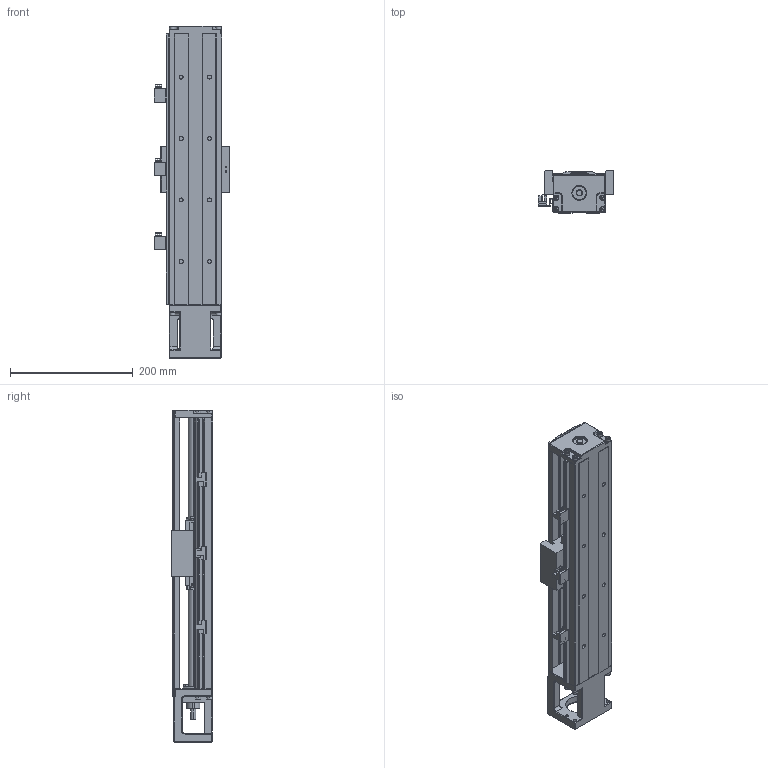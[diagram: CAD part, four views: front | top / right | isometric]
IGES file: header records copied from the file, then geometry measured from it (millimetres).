
Start section: SolidWorks IGES file using analytic representation for surfaces
Bounding box: 122.8 x 68 x 540 mm (x, y, z)
Surface area: 398512.9 mm2 (no closed solid volume)
Topology: 0 solids, 0 shells, 1595 faces, 17900 edges, 17752 vertices
Faces by surface type: bspline 923, revolution 672
